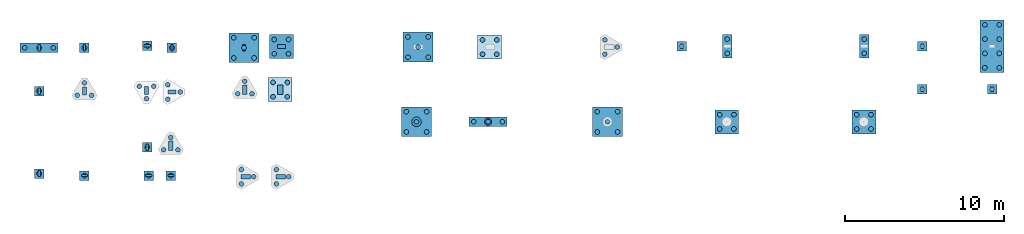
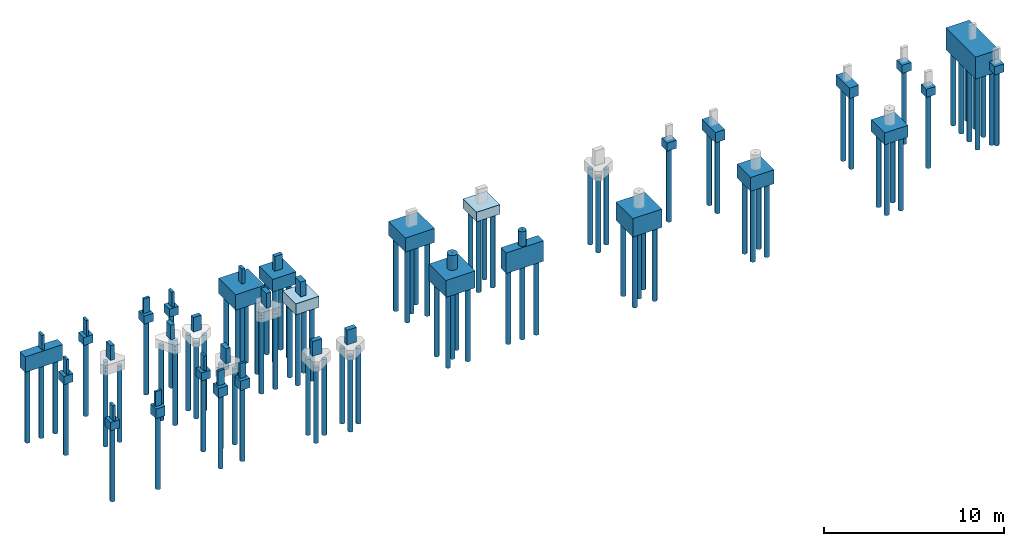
# One storey, part 1 of 3: 95 piles, 27 footings, 22 columns.
"""IFC2X3 building model written with IfcOpenShell, lengths in centimetres."""

from ifc_helpers import new_model, si_unit, derived_unit, frame, origin, origin_with_axes, origin_2d_with_axis, place, context, project, spatial, rectangle, circle, hollow_circle, extrude, faceted_brep, material, element, save


model = new_model("IFC2X3")

# Units and contexts
model_context = context("Model", 3, precision=1e-05, world=origin_with_axes(), identifier="Body")
ifc_project = project(units=[si_unit("LENGTHUNIT", "METRE", prefix="CENTI"), si_unit("VOLUMEUNIT", "CUBIC_METRE"), si_unit("AREAUNIT", "SQUARE_METRE"), si_unit("POWERUNIT", "WATT"), si_unit("LUMINOUSFLUXUNIT", "LUMEN"), si_unit("ELECTRICCURRENTUNIT", "AMPERE"), si_unit("PRESSUREUNIT", "PASCAL", prefix="KILO"), si_unit("MASSUNIT", "GRAM", prefix="KILO"), si_unit("PLANEANGLEUNIT", "RADIAN"), derived_unit("VOLUMETRICFLOWRATEUNIT", [(si_unit("LENGTHUNIT", "METRE"), 3), (si_unit("TIMEUNIT", "SECOND"), -1)])], contexts=[model_context])

# Site, building, storey
site_placement = place(None, origin_with_axes())
site = spatial("IfcSite", under=ifc_project, at=site_placement)
building_placement = place(site_placement, origin())
building = spatial("IfcBuilding", under=site, at=building_placement)
storey_placement = place(building_placement, origin_with_axes())
storey = spatial("IfcBuildingStorey", under=building, at=storey_placement, Name="01. Estacionamento", CompositionType="ELEMENT", Elevation=0.0)

# Footings
ifc_material = material(Name="Concreto")
footing_1_placement = place(storey_placement, frame((-1732.96, -294.11, -100.0), z_axis=(0.0, 0.0, 1.0), x_axis=(1.0, 0.0, 0.0)))
element("IfcFooting", 1, at=footing_1_placement, inside=storey, material=ifc_material, Name="P1", context=model_context, shape_type="SolidModel", body=[
    faceted_brep([(120.0, 30.0, -105.0), (120.0, -30.0, -105.0), (-120.0, -30.0, -105.0), (-120.0, 30.0, -105.0), (-120.0, 30.0, 0.0), (-120.0, -30.0, 0.0), (120.0, -30.0, 0.0), (120.0, 30.0, 0.0)], [[[0, 1, 2, 3]], [[4, 5, 6, 7]], [[4, 3, 5]], [[3, 2, 5]], [[5, 2, 6]], [[2, 1, 6]], [[6, 1, 7]], [[1, 0, 7]], [[7, 0, 4]], [[0, 3, 4]]]),
])
footing_2_placement = place(storey_placement, frame((2305.54, -284.11, -100.0), z_axis=(0.0, 0.0, 1.0), x_axis=(1.0, 0.0, 0.0)))
element("IfcFooting", 2, at=footing_2_placement, inside=storey, material=ifc_material, Name="P11", context=model_context, shape_type="SolidModel", body=[
    faceted_brep([(30.0, -30.0, -55.0), (-30.0, -30.0, -55.0), (-30.0, 30.0, -55.0), (30.0, 30.0, -55.0), (30.0, 30.0, 0.0), (-30.0, 30.0, 0.0), (-30.0, -30.0, 0.0), (30.0, -30.0, 0.0)], [[[0, 1, 2, 3]], [[4, 5, 6, 7]], [[4, 3, 5]], [[3, 2, 5]], [[5, 2, 6]], [[2, 1, 6]], [[6, 1, 7]], [[1, 0, 7]], [[7, 0, 4]], [[0, 3, 4]]]),
])
for number, where, z_axis, x_axis, name in (
    (3, (2591.04, -284.11, -100.0), (0.0, 0.0, 1.0), (1.0, 0.0, 0.0), "P12"),
    (4, (3452.04, -284.11, -100.0), (0.0, 0.0, 1.0), (1.0, 0.0, 0.0), "P13"),
):
    element("IfcFooting", number, at=place(storey_placement, frame(where, z_axis=z_axis, x_axis=x_axis)), inside=storey, material=ifc_material, Name=name, context=model_context, shape_type="SolidModel", body=[
        faceted_brep([(30.0, -75.0, -70.0), (-30.0, -75.0, -70.0), (-30.0, 75.0, -70.0), (30.0, 75.0, -70.0), (30.0, 75.0, 0.0), (-30.0, 75.0, 0.0), (-30.0, -75.0, 0.0), (30.0, -75.0, 0.0)], [[[0, 1, 2, 3]], [[4, 5, 6, 7]], [[4, 3, 5]], [[3, 2, 5]], [[5, 2, 6]], [[2, 1, 6]], [[6, 1, 7]], [[1, 0, 7]], [[7, 0, 4]], [[0, 3, 4]]]),
    ])
footing_3_placement = place(storey_placement, frame((3816.04, -284.11, -100.0), z_axis=(0.0, 0.0, 1.0), x_axis=(1.0, 0.0, 0.0)))
element("IfcFooting", 5, at=footing_3_placement, inside=storey, material=ifc_material, Name="P14", context=model_context, shape_type="SolidModel", body=[
    faceted_brep([(30.0, -30.0, -55.0), (-30.0, -30.0, -55.0), (-30.0, 30.0, -55.0), (30.0, 30.0, -55.0), (30.0, 30.0, 0.0), (-30.0, 30.0, 0.0), (-30.0, -30.0, 0.0), (30.0, -30.0, 0.0)], [[[0, 1, 2, 3]], [[4, 5, 6, 7]], [[4, 3, 5]], [[3, 2, 5]], [[5, 2, 6]], [[2, 1, 6]], [[6, 1, 7]], [[1, 0, 7]], [[7, 0, 4]], [[0, 3, 4]]]),
])
footing_4_placement = place(storey_placement, frame((4255.54, -284.11, -100.0), z_axis=(0.0, 0.0, 1.0), x_axis=(1.0, 0.0, 0.0)))
element("IfcFooting", 6, at=footing_4_placement, inside=storey, material=ifc_material, Name="P15", context=model_context, shape_type="SolidModel", body=[
    faceted_brep([(75.0, -165.0, -150.0), (-75.0, -165.0, -150.0), (-75.0, 165.0, -150.0), (75.0, 165.0, -150.0), (75.0, 165.0, 0.0), (-75.0, 165.0, 0.0), (-75.0, -165.0, 0.0), (75.0, -165.0, 0.0)], [[[0, 1, 2, 3]], [[4, 5, 6, 7]], [[4, 3, 5]], [[3, 2, 5]], [[5, 2, 6]], [[2, 1, 6]], [[6, 1, 7]], [[1, 0, 7]], [[7, 0, 4]], [[0, 3, 4]]]),
])
for number, where, z_axis, x_axis, name in (
    (7, (-1732.96, -566.61, -100.0), (0.0, 0.0, 1.0), (1.0, 0.0, 0.0), "P16"),
    (8, (-1447.96, -294.11, -100.0), (0.0, 0.0, 1.0), (1.0, 0.0, 0.0), "P2"),
):
    element("IfcFooting", number, at=place(storey_placement, frame(where, z_axis=z_axis, x_axis=x_axis)), inside=storey, material=ifc_material, Name=name, context=model_context, shape_type="SolidModel", body=[
        faceted_brep([(30.0, 30.0, -55.0), (30.0, -30.0, -55.0), (-30.0, -30.0, -55.0), (-30.0, 30.0, -55.0), (-30.0, 30.0, 0.0), (-30.0, -30.0, 0.0), (30.0, -30.0, 0.0), (30.0, 30.0, 0.0)], [[[0, 1, 2, 3]], [[4, 5, 6, 7]], [[4, 3, 5]], [[3, 2, 5]], [[5, 2, 6]], [[2, 1, 6]], [[6, 1, 7]], [[1, 0, 7]], [[7, 0, 4]], [[0, 3, 4]]]),
    ])
footing_5_placement = place(storey_placement, frame((-217.96, -556.61, -100.0), z_axis=(0.0, 0.0, 1.0), x_axis=(1.0, 0.0, 0.0)))
element("IfcFooting", 9, at=footing_5_placement, inside=storey, material=ifc_material, Name="P21", context=model_context, shape_type="SolidModel", body=[
    faceted_brep([(75.0, 75.0, -75.0), (75.0, -75.0, -75.0), (-75.0, -75.0, -75.0), (-75.0, 75.0, -75.0), (-75.0, 75.0, 0.0), (-75.0, -75.0, 0.0), (75.0, -75.0, 0.0), (75.0, 75.0, 0.0)], [[[0, 1, 2, 3]], [[4, 5, 6, 7]], [[4, 3, 5]], [[3, 2, 5]], [[5, 2, 6]], [[2, 1, 6]], [[6, 1, 7]], [[1, 0, 7]], [[7, 0, 4]], [[0, 3, 4]]]),
])
for number, where, z_axis, x_axis, name in (
    (10, (3816.04, -554.11, -100.0), (0.0, 0.0, 1.0), (1.0, 0.0, 0.0), "P22"),
    (11, (4255.54, -554.11, -100.0), (0.0, 0.0, 1.0), (1.0, 0.0, 0.0), "P23"),
):
    element("IfcFooting", number, at=place(storey_placement, frame(where, z_axis=z_axis, x_axis=x_axis)), inside=storey, material=ifc_material, Name=name, context=model_context, shape_type="SolidModel", body=[
        faceted_brep([(30.0, -30.0, -55.0), (-30.0, -30.0, -55.0), (-30.0, 30.0, -55.0), (30.0, 30.0, -55.0), (30.0, 30.0, 0.0), (-30.0, 30.0, 0.0), (-30.0, -30.0, 0.0), (30.0, -30.0, 0.0)], [[[0, 1, 2, 3]], [[4, 5, 6, 7]], [[4, 3, 5]], [[3, 2, 5]], [[5, 2, 6]], [[2, 1, 6]], [[6, 1, 7]], [[1, 0, 7]], [[7, 0, 4]], [[0, 3, 4]]]),
    ])
footing_6_placement = place(storey_placement, frame((638.67, -758.96, -100.0), z_axis=(0.0, 0.0, 1.0), x_axis=(1.0, 0.0, 0.0)))
element("IfcFooting", 12, at=footing_6_placement, inside=storey, material=ifc_material, Name="P28", context=model_context, shape_type="SolidModel", body=[
    faceted_brep([(93.63961030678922, 93.63961030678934, -115.0), (93.63961030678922, -93.63961030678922, -115.0), (-93.63961030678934, -93.63961030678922, -115.0), (-93.63961030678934, 93.63961030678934, -115.0), (-93.63961030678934, 93.63961030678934, 0.0), (-93.63961030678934, -93.63961030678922, 0.0), (93.63961030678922, -93.63961030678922, 0.0), (93.63961030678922, 93.63961030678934, 0.0)], [[[0, 1, 2, 3]], [[4, 5, 6, 7]], [[4, 3, 5]], [[3, 2, 5]], [[5, 2, 6]], [[2, 1, 6]], [[6, 1, 7]], [[1, 0, 7]], [[7, 0, 4]], [[0, 3, 4]]]),
])
footing_7_placement = place(storey_placement, frame((1088.67, -758.96, -100.0), z_axis=(0.0, 0.0, 1.0), x_axis=(1.0, 0.0, 0.0)))
element("IfcFooting", 13, at=footing_7_placement, inside=storey, material=ifc_material, Name="P29", context=model_context, shape_type="SolidModel", body=[
    faceted_brep([(120.0, 30.0, -140.0), (120.0, -30.0, -140.0), (-120.0, -30.0, -140.0), (-120.0, 30.0, -140.0), (-120.0, 30.0, 0.0), (-120.0, -30.0, 0.0), (120.0, -30.0, 0.0), (120.0, 30.0, 0.0)], [[[0, 1, 2, 3]], [[4, 5, 6, 7]], [[4, 3, 5]], [[3, 2, 5]], [[5, 2, 6]], [[2, 1, 6]], [[6, 1, 7]], [[1, 0, 7]], [[7, 0, 4]], [[0, 3, 4]]]),
])
footing_8_placement = place(storey_placement, frame((-1052.96, -282.08, -100.0), z_axis=(0.0, 0.0, 1.0), x_axis=(1.0, 0.0, 0.0)))
element("IfcFooting", 14, at=footing_8_placement, inside=storey, material=ifc_material, Name="P3", context=model_context, shape_type="SolidModel", body=[
    faceted_brep([(30.0, -30.0, -55.0), (-30.0, -30.0, -55.0), (-30.0, 30.0, -55.0), (30.0, 30.0, -55.0), (30.0, 30.0, 0.0), (-30.0, 30.0, 0.0), (-30.0, -30.0, 0.0), (30.0, -30.0, 0.0)], [[[0, 1, 2, 3]], [[4, 5, 6, 7]], [[4, 3, 5]], [[3, 2, 5]], [[5, 2, 6]], [[2, 1, 6]], [[6, 1, 7]], [[1, 0, 7]], [[7, 0, 4]], [[0, 3, 4]]]),
])
footing_9_placement = place(storey_placement, frame((1838.67, -758.96, -100.0), z_axis=(0.0, 0.0, 1.0), x_axis=(1.0, 0.0, 0.0)))
element("IfcFooting", 15, at=footing_9_placement, inside=storey, material=ifc_material, Name="P30", context=model_context, shape_type="SolidModel", body=[
    faceted_brep([(93.63961030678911, 93.63961030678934, -125.0), (93.63961030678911, -93.63961030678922, -125.0), (-93.63961030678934, -93.63961030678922, -125.0), (-93.63961030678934, 93.63961030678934, -125.0), (-93.63961030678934, 93.63961030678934, 0.0), (-93.63961030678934, -93.63961030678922, 0.0), (93.63961030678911, -93.63961030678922, 0.0), (93.63961030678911, 93.63961030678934, 0.0)], [[[0, 1, 2, 3]], [[4, 5, 6, 7]], [[4, 3, 5]], [[3, 2, 5]], [[5, 2, 6]], [[2, 1, 6]], [[6, 1, 7]], [[1, 0, 7]], [[7, 0, 4]], [[0, 3, 4]]]),
])
footing_10_placement = place(storey_placement, frame((2588.67, -758.96, -100.0), z_axis=(0.0, 0.0, 1.0), x_axis=(1.0, 0.0, 0.0)))
element("IfcFooting", 16, at=footing_10_placement, inside=storey, material=ifc_material, Name="P31", context=model_context, shape_type="SolidModel", body=[
    faceted_brep([(75.0, 75.0, -95.0), (75.0, -75.0, -95.0), (-75.0, -75.0, -95.0), (-75.0, 75.0, -95.0), (-75.0, 75.0, 0.0), (-75.0, -75.0, 0.0), (75.0, -75.0, 0.0), (75.0, 75.0, 0.0)], [[[0, 1, 2, 3]], [[4, 5, 6, 7]], [[4, 3, 5]], [[3, 2, 5]], [[5, 2, 6]], [[2, 1, 6]], [[6, 1, 7]], [[1, 0, 7]], [[7, 0, 4]], [[0, 3, 4]]]),
])
footing_11_placement = place(storey_placement, frame((3449.67, -758.96, -100.0), z_axis=(0.0, 0.0, 1.0), x_axis=(1.0, 0.0, 0.0)))
element("IfcFooting", 17, at=footing_11_placement, inside=storey, material=ifc_material, Name="P32", context=model_context, shape_type="SolidModel", body=[
    faceted_brep([(75.0, 75.0, -80.0), (75.0, -75.0, -80.0), (-75.0, -75.0, -80.0), (-75.0, 75.0, -80.0), (-75.0, 75.0, 0.0), (-75.0, -75.0, 0.0), (75.0, -75.0, 0.0), (75.0, 75.0, 0.0)], [[[0, 1, 2, 3]], [[4, 5, 6, 7]], [[4, 3, 5]], [[3, 2, 5]], [[5, 2, 6]], [[2, 1, 6]], [[6, 1, 7]], [[1, 0, 7]], [[7, 0, 4]], [[0, 3, 4]]]),
])
footing_12_placement = place(storey_placement, frame((-1052.96, -919.11, -100.0), z_axis=(0.0, 0.0, 1.0), x_axis=(1.0, 0.0, 0.0)))
element("IfcFooting", 18, at=footing_12_placement, inside=storey, material=ifc_material, Name="P33", context=model_context, shape_type="SolidModel", body=[
    faceted_brep([(-30.0, -30.0, -55.0), (-30.0, 30.0, -55.0), (30.0, 30.0, -55.0), (30.0, -30.0, -55.0), (30.0, -30.0, 0.0), (30.0, 30.0, 0.0), (-30.0, 30.0, 0.0), (-30.0, -30.0, 0.0)], [[[0, 1, 2, 3]], [[4, 5, 6, 7]], [[4, 3, 5]], [[3, 2, 5]], [[5, 2, 6]], [[2, 1, 6]], [[6, 1, 7]], [[1, 0, 7]], [[7, 0, 4]], [[0, 3, 4]]]),
])
footing_13_placement = place(storey_placement, frame((-1732.96, -1084.11, -100.0), z_axis=(0.0, 0.0, 1.0), x_axis=(1.0, 0.0, 0.0)))
element("IfcFooting", 19, at=footing_13_placement, inside=storey, material=ifc_material, Name="P35", context=model_context, shape_type="SolidModel", body=[
    faceted_brep([(30.0, 30.0, -55.0), (30.0, -30.0, -55.0), (-30.0, -30.0, -55.0), (-30.0, 30.0, -55.0), (-30.0, 30.0, 0.0), (-30.0, -30.0, 0.0), (30.0, -30.0, 0.0), (30.0, 30.0, 0.0)], [[[0, 1, 2, 3]], [[4, 5, 6, 7]], [[4, 3, 5]], [[3, 2, 5]], [[5, 2, 6]], [[2, 1, 6]], [[6, 1, 7]], [[1, 0, 7]], [[7, 0, 4]], [[0, 3, 4]]]),
])
for number, where, z_axis, x_axis, name in (
    (20, (-1447.96, -1096.61, -100.0), (0.0, 0.0, 1.0), (1.0, 0.0, 0.0), "P36"),
    (21, (-1044.96, -1096.6, -100.0), (0.0, 0.0, 1.0), (1.0, 0.0, 0.0), "P37"),
    (22, (-904.46, -1096.6, -100.0), (0.0, 0.0, 1.0), (1.0, 0.0, 0.0), "P38"),
):
    element("IfcFooting", number, at=place(storey_placement, frame(where, z_axis=z_axis, x_axis=x_axis)), inside=storey, material=ifc_material, Name=name, context=model_context, shape_type="SolidModel", body=[
        faceted_brep([(30.0, -30.0, -65.0), (-30.0, -30.0, -65.0), (-30.0, 30.0, -65.0), (30.0, 30.0, -65.0), (30.0, 30.0, 0.0), (-30.0, 30.0, 0.0), (-30.0, -30.0, 0.0), (30.0, -30.0, 0.0)], [[[0, 1, 2, 3]], [[4, 5, 6, 7]], [[4, 3, 5]], [[3, 2, 5]], [[5, 2, 6]], [[2, 1, 6]], [[6, 1, 7]], [[1, 0, 7]], [[7, 0, 4]], [[0, 3, 4]]]),
    ])
footing_14_placement = place(storey_placement, frame((-897.96, -294.11, -100.0), z_axis=(0.0, 0.0, 1.0), x_axis=(1.0, 0.0, 0.0)))
element("IfcFooting", 23, at=footing_14_placement, inside=storey, material=ifc_material, Name="P4", context=model_context, shape_type="SolidModel", body=[
    faceted_brep([(30.0, 30.0, -55.0), (30.0, -30.0, -55.0), (-30.0, -30.0, -55.0), (-30.0, 30.0, -55.0), (-30.0, 30.0, 0.0), (-30.0, -30.0, 0.0), (30.0, -30.0, 0.0), (30.0, 30.0, 0.0)], [[[0, 1, 2, 3]], [[4, 5, 6, 7]], [[4, 3, 5]], [[3, 2, 5]], [[5, 2, 6]], [[2, 1, 6]], [[6, 1, 7]], [[1, 0, 7]], [[7, 0, 4]], [[0, 3, 4]]]),
])
footing_15_placement = place(storey_placement, frame((-445.46, -294.11, -100.0), z_axis=(0.0, 0.0, 1.0), x_axis=(1.0, 0.0, 0.0)))
element("IfcFooting", 24, at=footing_15_placement, inside=storey, material=ifc_material, Name="P5", context=model_context, shape_type="SolidModel", body=[
    faceted_brep([(93.63961030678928, 93.63961030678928, -105.0), (93.63961030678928, -93.63961030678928, -105.0), (-93.63961030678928, -93.63961030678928, -105.0), (-93.63961030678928, 93.63961030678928, -105.0), (-93.63961030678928, 93.63961030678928, 0.0), (-93.63961030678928, -93.63961030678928, 0.0), (93.63961030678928, -93.63961030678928, 0.0), (93.63961030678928, 93.63961030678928, 0.0)], [[[0, 1, 2, 3]], [[4, 5, 6, 7]], [[4, 3, 5]], [[3, 2, 5]], [[5, 2, 6]], [[2, 1, 6]], [[6, 1, 7]], [[1, 0, 7]], [[7, 0, 4]], [[0, 3, 4]]]),
])
footing_16_placement = place(storey_placement, frame((-210.46, -286.61, -100.0), z_axis=(0.0, 0.0, 1.0), x_axis=(1.0, 0.0, 0.0)))
element("IfcFooting", 25, at=footing_16_placement, inside=storey, material=ifc_material, Name="P6", context=model_context, shape_type="SolidModel", body=[
    faceted_brep([(75.0, -75.0, -85.0), (-75.0, -75.0, -85.0), (-75.0, 75.0, -85.0), (75.0, 75.0, -85.0), (75.0, 75.0, 0.0), (-75.0, 75.0, 0.0), (-75.0, -75.0, 0.0), (75.0, -75.0, 0.0)], [[[0, 1, 2, 3]], [[4, 5, 6, 7]], [[4, 3, 5]], [[3, 2, 5]], [[5, 2, 6]], [[2, 1, 6]], [[6, 1, 7]], [[1, 0, 7]], [[7, 0, 4]], [[0, 3, 4]]]),
])
footing_17_placement = place(storey_placement, frame((648.54, -289.11, -100.0), z_axis=(0.0, 0.0, 1.0), x_axis=(1.0, 0.0, 0.0)))
element("IfcFooting", 26, at=footing_17_placement, inside=storey, material=ifc_material, Name="P8", context=model_context, shape_type="SolidModel", body=[
    faceted_brep([(93.63961030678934, -93.63961030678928, -95.0), (-93.63961030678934, -93.63961030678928, -95.0), (-93.63961030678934, 93.63961030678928, -95.0), (93.63961030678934, 93.63961030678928, -95.0), (93.63961030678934, 93.63961030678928, 0.0), (-93.63961030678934, 93.63961030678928, 0.0), (-93.63961030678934, -93.63961030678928, 0.0), (93.63961030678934, -93.63961030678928, 0.0)], [[[0, 1, 2, 3]], [[4, 5, 6, 7]], [[4, 3, 5]], [[3, 2, 5]], [[5, 2, 6]], [[2, 1, 6]], [[6, 1, 7]], [[1, 0, 7]], [[7, 0, 4]], [[0, 3, 4]]]),
])
footing_18_placement = place(storey_placement, frame((1098.54, -289.11, -100.0), z_axis=(0.0, 0.0, 1.0), x_axis=(1.0, 0.0, 0.0)))
element("IfcFooting", 27, at=footing_18_placement, inside=storey, material=ifc_material, Name="P9", context=model_context, shape_type="SolidModel", body=[
    faceted_brep([(75.0, -75.0, -65.0), (-75.0, -75.0, -65.0), (-75.0, 75.0, -65.0), (75.0, 75.0, -65.0), (75.0, 75.0, 0.0), (-75.0, 75.0, 0.0), (-75.0, -75.0, 0.0), (75.0, -75.0, 0.0)], [[[0, 1, 2, 3]], [[4, 5, 6, 7]], [[4, 3, 5]], [[3, 2, 5]], [[5, 2, 6]], [[2, 1, 6]], [[6, 1, 7]], [[1, 0, 7]], [[7, 0, 4]], [[0, 3, 4]]]),
])

# Piles
for number, where, z_axis, x_axis, name in (
    (28, (-1822.96, -294.11, -190.0), (0.0, 0.0, 1.0), (1.0, 0.0, 0.0), "E1-1"),
    (29, (-1732.96, -294.11, -190.0), (0.0, 0.0, 1.0), (1.0, 0.0, 0.0), "E1-2"),
    (30, (-1642.96, -294.11, -190.0), (0.0, 0.0, 1.0), (1.0, 0.0, 0.0), "E1-3"),
    (31, (1822.5592378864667, -244.11, -150.0), (0.0, 0.0, 1.0), (1.0, 0.0, 0.0), "E10-1"),
    (32, (1900.5015242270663, -289.11, -150.0), (0.0, 0.0, 1.0), (1.0, 0.0, 0.0), "E10-2"),
    (33, (1822.559237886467, -334.11, -150.0), (0.0, 0.0, 1.0), (1.0, 0.0, 0.0), "E10-3"),
    (34, (2305.54, -284.11, -140.0), (0.0, 0.0, 1.0), (1.0, 0.0, 0.0), "E11-1"),
    (35, (2591.04, -239.11, -155.0), (0.0, 0.0, 1.0), (1.0, 0.0, 0.0), "E12-1"),
    (36, (2591.04, -329.11, -155.0), (0.0, 0.0, 1.0), (1.0, 0.0, 0.0), "E12-2"),
    (37, (3452.04, -239.11, -155.0), (0.0, 0.0, 1.0), (1.0, 0.0, 0.0), "E13-1"),
    (38, (3452.04, -329.11, -155.0), (0.0, 0.0, 1.0), (1.0, 0.0, 0.0), "E13-2"),
    (39, (3816.04, -284.11, -140.0), (0.0, 0.0, 1.0), (1.0, 0.0, 0.0), "E14-1"),
    (40, (4210.54, -149.11, -235.0), (0.0, 0.0, 1.0), (1.0, 0.0, 0.0), "E15-1"),
    (41, (4300.54, -149.11, -235.0), (0.0, 0.0, 1.0), (1.0, 0.0, 0.0), "E15-2"),
    (42, (4210.54, -239.11, -235.0), (0.0, 0.0, 1.0), (1.0, 0.0, 0.0), "E15-3"),
    (43, (4300.54, -239.11, -235.0), (0.0, 0.0, 1.0), (1.0, 0.0, 0.0), "E15-4"),
    (44, (4210.54, -329.11, -235.0), (0.0, 0.0, 1.0), (1.0, 0.0, 0.0), "E15-5"),
    (45, (4300.54, -329.11, -235.0), (0.0, 0.0, 1.0), (1.0, 0.0, 0.0), "E15-6"),
    (46, (4210.54, -419.11, -235.0), (0.0, 0.0, 1.0), (1.0, 0.0, 0.0), "E15-7"),
    (47, (4300.54, -419.11, -235.0), (0.0, 0.0, 1.0), (1.0, 0.0, 0.0), "E15-8"),
    (48, (-1732.96, -566.61, -140.0), (0.0, 0.0, 1.0), (1.0, 0.0, 0.0), "E16-1"),
    (49, (-1447.96, -514.6484757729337, -150.0), (0.0, 0.0, 1.0), (1.0, 0.0, 0.0), "E17-1"),
    (50, (-1492.96, -592.5907621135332, -150.0), (0.0, 0.0, 1.0), (1.0, 0.0, 0.0), "E17-2"),
    (51, (-1402.96, -592.5907621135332, -150.0), (0.0, 0.0, 1.0), (1.0, 0.0, 0.0), "E17-3"),
    (52, (-1102.96, -535.6292378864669, -145.0), (0.0, 0.0, 1.0), (1.0, 0.0, 0.0), "E18-1"),
    (53, (-1012.96, -535.6292378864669, -145.0), (0.0, 0.0, 1.0), (1.0, 0.0, 0.0), "E18-2"),
    (54, (-1057.96, -613.5715242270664, -145.0), (0.0, 0.0, 1.0), (1.0, 0.0, 0.0), "E18-3"),
    (55, (-923.9407621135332, -526.61, -145.0), (0.0, 0.0, 1.0), (1.0, 0.0, 0.0), "E19-1"),
    (56, (-845.9984757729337, -571.61, -145.0), (0.0, 0.0, 1.0), (1.0, 0.0, 0.0), "E19-2"),
    (57, (-923.9407621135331, -616.61, -145.0), (0.0, 0.0, 1.0), (1.0, 0.0, 0.0), "E19-3"),
    (58, (-1447.96, -294.11, -140.0), (0.0, 0.0, 1.0), (1.0, 0.0, 0.0), "E2-1"),
    (59, (-440.46, -504.6484757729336, -150.0), (0.0, 0.0, 1.0), (1.0, 0.0, 0.0), "E20-1"),
    (60, (-485.46, -582.5907621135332, -150.0), (0.0, 0.0, 1.0), (1.0, 0.0, 0.0), "E20-2"),
    (61, (-395.46, -582.5907621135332, -150.0), (0.0, 0.0, 1.0), (1.0, 0.0, 0.0), "E20-3"),
    (62, (-262.96, -511.61, -160.0), (0.0, 0.0, 1.0), (1.0, 0.0, 0.0), "E21-1"),
    (63, (-172.96, -511.61, -160.0), (0.0, 0.0, 1.0), (1.0, 0.0, 0.0), "E21-2"),
    (64, (-262.96, -601.61, -160.0), (0.0, 0.0, 1.0), (1.0, 0.0, 0.0), "E21-3"),
    (65, (-172.96, -601.61, -160.0), (0.0, 0.0, 1.0), (1.0, 0.0, 0.0), "E21-4"),
    (66, (3816.04, -554.11, -140.0), (0.0, 0.0, 1.0), (1.0, 0.0, 0.0), "E22-1"),
    (67, (4255.54, -554.11, -140.0), (0.0, 0.0, 1.0), (1.0, 0.0, 0.0), "E23-1"),
    (68, (575.0303896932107, -695.3203896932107, -200.0), (0.0, 0.0, 1.0), (1.0, 0.0, 0.0), "E28-1"),
    (69, (702.3096103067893, -695.3203896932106, -200.0), (0.0, 0.0, 1.0), (1.0, 0.0, 0.0), "E28-2"),
    (70, (638.67, -758.96, -200.0), (0.0, 0.0, 1.0), (1.0, 0.0, 0.0), "E28-3"),
    (71, (575.0303896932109, -822.5996103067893, -200.0), (0.0, 0.0, 1.0), (1.0, 0.0, 0.0), "E28-4"),
    (72, (702.3096103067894, -822.5996103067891, -200.0), (0.0, 0.0, 1.0), (1.0, 0.0, 0.0), "E28-5"),
    (73, (998.67, -758.96, -225.0), (0.0, 0.0, 1.0), (1.0, 0.0, 0.0), "E29-1"),
    (74, (1088.67, -758.96, -225.0), (0.0, 0.0, 1.0), (1.0, 0.0, 0.0), "E29-2"),
    (75, (1178.67, -758.96, -225.0), (0.0, 0.0, 1.0), (1.0, 0.0, 0.0), "E29-3"),
    (76, (-1052.96, -282.08, -140.0), (0.0, 0.0, 1.0), (1.0, 0.0, 0.0), "E3-1"),
    (77, (1775.0303896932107, -695.3203896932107, -210.0), (0.0, 0.0, 1.0), (1.0, 0.0, 0.0), "E30-1"),
    (78, (1902.3096103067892, -695.3203896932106, -210.0), (0.0, 0.0, 1.0), (1.0, 0.0, 0.0), "E30-2"),
    (79, (1838.67, -758.96, -210.0), (0.0, 0.0, 1.0), (1.0, 0.0, 0.0), "E30-3"),
    (80, (1775.0303896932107, -822.5996103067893, -210.0), (0.0, 0.0, 1.0), (1.0, 0.0, 0.0), "E30-4"),
    (81, (1902.3096103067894, -822.5996103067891, -210.0), (0.0, 0.0, 1.0), (1.0, 0.0, 0.0), "E30-5"),
    (82, (2543.67, -713.96, -180.0), (0.0, 0.0, 1.0), (1.0, 0.0, 0.0), "E31-1"),
    (83, (2633.67, -713.96, -180.0), (0.0, 0.0, 1.0), (1.0, 0.0, 0.0), "E31-2"),
    (84, (2543.67, -803.96, -180.0), (0.0, 0.0, 1.0), (1.0, 0.0, 0.0), "E31-3"),
    (85, (2633.67, -803.96, -180.0), (0.0, 0.0, 1.0), (1.0, 0.0, 0.0), "E31-4"),
    (86, (3404.67, -713.96, -165.0), (0.0, 0.0, 1.0), (1.0, 0.0, 0.0), "E32-1"),
    (87, (3494.67, -713.96, -165.0), (0.0, 0.0, 1.0), (1.0, 0.0, 0.0), "E32-2"),
    (88, (3404.67, -803.96, -165.0), (0.0, 0.0, 1.0), (1.0, 0.0, 0.0), "E32-3"),
    (89, (3494.67, -803.96, -165.0), (0.0, 0.0, 1.0), (1.0, 0.0, 0.0), "E32-4"),
    (90, (-1052.96, -919.11, -140.0), (0.0, 0.0, 1.0), (1.0, 0.0, 0.0), "E33-1"),
    (91, (-905.46, -857.1484757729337, -150.0), (0.0, 0.0, 1.0), (1.0, 0.0, 0.0), "E34-1"),
    (92, (-950.46, -935.0907621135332, -150.0), (0.0, 0.0, 1.0), (1.0, 0.0, 0.0), "E34-2"),
    (93, (-860.46, -935.0907621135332, -150.0), (0.0, 0.0, 1.0), (1.0, 0.0, 0.0), "E34-3"),
    (94, (-1732.96, -1084.11, -140.0), (0.0, 0.0, 1.0), (1.0, 0.0, 0.0), "E35-1"),
    (95, (-1447.96, -1096.61, -150.0), (0.0, 0.0, 1.0), (1.0, 0.0, 0.0), "E36-1"),
    (96, (-1044.96, -1096.6, -150.0), (0.0, 0.0, 1.0), (1.0, 0.0, 0.0), "E37-1"),
    (97, (-904.46, -1096.6, -150.0), (0.0, 0.0, 1.0), (1.0, 0.0, 0.0), "E38-1"),
    (98, (-461.440762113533, -1059.1, -150.0), (0.0, 0.0, 1.0), (1.0, 0.0, 0.0), "E39-1"),
    (99, (-383.49847577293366, -1104.1, -150.0), (0.0, 0.0, 1.0), (1.0, 0.0, 0.0), "E39-2"),
    (100, (-461.440762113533, -1149.1, -150.0), (0.0, 0.0, 1.0), (1.0, 0.0, 0.0), "E39-3"),
    (101, (-897.96, -294.11, -140.0), (0.0, 0.0, 1.0), (1.0, 0.0, 0.0), "E4-1"),
    (102, (-241.44076211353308, -1059.1, -150.0), (0.0, 0.0, 1.0), (1.0, 0.0, 0.0), "E40-1"),
    (103, (-163.4984757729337, -1104.1, -150.0), (0.0, 0.0, 1.0), (1.0, 0.0, 0.0), "E40-2"),
    (104, (-241.44076211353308, -1149.1, -150.0), (0.0, 0.0, 1.0), (1.0, 0.0, 0.0), "E40-3"),
    (105, (-509.09961030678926, -230.47038969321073, -190.0), (0.0, 0.0, 1.0), (1.0, 0.0, 0.0), "E5-1"),
    (106, (-381.8203896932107, -230.47038969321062, -190.0), (0.0, 0.0, 1.0), (1.0, 0.0, 0.0), "E5-2"),
    (107, (-445.46, -294.11, -190.0), (0.0, 0.0, 1.0), (1.0, 0.0, 0.0), "E5-3"),
    (108, (-509.09961030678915, -357.7496103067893, -190.0), (0.0, 0.0, 1.0), (1.0, 0.0, 0.0), "E5-4"),
    (109, (-381.82038969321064, -357.74961030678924, -190.0), (0.0, 0.0, 1.0), (1.0, 0.0, 0.0), "E5-5"),
    (110, (-255.46, -241.61, -170.0), (0.0, 0.0, 1.0), (1.0, 0.0, 0.0), "E6-1"),
    (111, (-165.46, -241.61, -170.0), (0.0, 0.0, 1.0), (1.0, 0.0, 0.0), "E6-2"),
    (112, (-255.46, -331.61, -170.0), (0.0, 0.0, 1.0), (1.0, 0.0, 0.0), "E6-3"),
    (113, (-165.46, -331.61, -170.0), (0.0, 0.0, 1.0), (1.0, 0.0, 0.0), "E6-4"),
    (114, (584.9003896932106, -225.4703896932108, -180.0), (0.0, 0.0, 1.0), (1.0, 0.0, 0.0), "E8-1"),
    (115, (712.1796103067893, -225.47038969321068, -180.0), (0.0, 0.0, 1.0), (1.0, 0.0, 0.0), "E8-2"),
    (116, (648.54, -289.11, -180.0), (0.0, 0.0, 1.0), (1.0, 0.0, 0.0), "E8-3"),
    (117, (584.9003896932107, -352.74961030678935, -180.0), (0.0, 0.0, 1.0), (1.0, 0.0, 0.0), "E8-4"),
    (118, (712.1796103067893, -352.74961030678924, -180.0), (0.0, 0.0, 1.0), (1.0, 0.0, 0.0), "E8-5"),
    (119, (1053.54, -244.11, -150.0), (0.0, 0.0, 1.0), (1.0, 0.0, 0.0), "E9-1"),
    (120, (1143.54, -244.11, -150.0), (0.0, 0.0, 1.0), (1.0, 0.0, 0.0), "E9-2"),
    (121, (1053.54, -334.11, -150.0), (0.0, 0.0, 1.0), (1.0, 0.0, 0.0), "E9-3"),
    (122, (1143.54, -334.11, -150.0), (0.0, 0.0, 1.0), (1.0, 0.0, 0.0), "E9-4"),
):
    element("IfcPile", number, at=place(storey_placement, frame(where, z_axis=z_axis, x_axis=x_axis)), inside=storey, material=ifc_material, Name=name, context=model_context, shape_type="SweptSolid", body=[
        extrude(circle(Radius=15.0, at=origin_2d_with_axis()), frame((0.0, 0.0, -515.0), z_axis=(0.0, 0.0, 1.0), x_axis=(1.0, 0.0, 0.0)), (0.0, 0.0, 1.0), 515.0),
    ])

# Columns
for number, where, z_axis, x_axis, name in (
    (123, (-1732.96, -294.11, 0.0), (0.0, 0.0, 1.0), (1.0, 0.0, 0.0), "P1"),
    (124, (-1732.96, -566.61, 0.0), (0.0, 0.0, 1.0), (1.0, 0.0, 0.0), "P16"),
):
    element("IfcColumn", number, at=place(storey_placement, frame(where, z_axis=z_axis, x_axis=x_axis)), inside=storey, material=ifc_material, Name=name, context=model_context, shape_type="SolidModel", body=[
        extrude(rectangle(XDim=15.0, YDim=40.0, at=origin_2d_with_axis()), frame((0.0, 0.0, -100.0), z_axis=(0.0, 0.0, 1.0), x_axis=(1.0, 0.0, 0.0)), (0.0, 0.0, 1.0), 100.0),
    ])
column_1_placement = place(storey_placement, frame((-1447.96, -566.61, 0.0), z_axis=(0.0, 0.0, 1.0), x_axis=(1.0, 0.0, 0.0)))
element("IfcColumn", 125, at=column_1_placement, inside=storey, material=ifc_material, Name="P17", context=model_context, shape_type="SolidModel", body=[
    extrude(rectangle(XDim=25.0, YDim=50.0, at=origin_2d_with_axis()), frame((0.0, 0.0, -100.0), z_axis=(0.0, 0.0, 1.0), x_axis=(1.0, 0.0, 0.0)), (0.0, 0.0, 1.0), 100.0),
])
column_2_placement = place(storey_placement, frame((-1057.96, -561.61, 0.0), z_axis=(0.0, 0.0, 1.0), x_axis=(1.0, 0.0, 0.0)))
element("IfcColumn", 126, at=column_2_placement, inside=storey, material=ifc_material, Name="P18", context=model_context, shape_type="SolidModel", body=[
    extrude(rectangle(XDim=25.0, YDim=50.0, at=origin_2d_with_axis()), frame((0.0, 0.0, -100.0), z_axis=(0.0, 0.0, 1.0), x_axis=(-1.0, 0.0, 0.0)), (0.0, 0.0, 1.0), 100.0),
])
column_3_placement = place(storey_placement, frame((-897.96, -571.61, 0.0), z_axis=(0.0, 0.0, 1.0), x_axis=(1.0, 0.0, 0.0)))
element("IfcColumn", 127, at=column_3_placement, inside=storey, material=ifc_material, Name="P19", context=model_context, shape_type="SolidModel", body=[
    extrude(rectangle(XDim=25.0, YDim=50.0, at=origin_2d_with_axis()), frame((0.0, 0.0, -100.0), z_axis=(0.0, 0.0, 1.0), x_axis=(0.0, -1.0, 0.0)), (0.0, 0.0, 1.0), 100.0),
])
column_4_placement = place(storey_placement, frame((-1447.96, -294.11, 0.0), z_axis=(0.0, 0.0, 1.0), x_axis=(1.0, 0.0, 0.0)))
element("IfcColumn", 128, at=column_4_placement, inside=storey, material=ifc_material, Name="P2", context=model_context, shape_type="SolidModel", body=[
    extrude(rectangle(XDim=15.0, YDim=40.0, at=origin_2d_with_axis()), frame((0.0, 0.0, -100.0), z_axis=(0.0, 0.0, 1.0), x_axis=(1.0, 0.0, 0.0)), (0.0, 0.0, 1.0), 100.0),
])
column_5_placement = place(storey_placement, frame((-440.46, -556.61, 0.0), z_axis=(0.0, 0.0, 1.0), x_axis=(1.0, 0.0, 0.0)))
element("IfcColumn", 129, at=column_5_placement, inside=storey, material=ifc_material, Name="P20", context=model_context, shape_type="SolidModel", body=[
    extrude(rectangle(XDim=30.0, YDim=60.0, at=origin_2d_with_axis()), frame((0.0, 0.0, -100.0), z_axis=(0.0, 0.0, 1.0), x_axis=(1.0, 0.0, 0.0)), (0.0, 0.0, 1.0), 100.0),
])
column_6_placement = place(storey_placement, frame((-217.96, -556.61, 0.0), z_axis=(0.0, 0.0, 1.0), x_axis=(1.0, 0.0, 0.0)))
element("IfcColumn", 130, at=column_6_placement, inside=storey, material=ifc_material, Name="P21", context=model_context, shape_type="SolidModel", body=[
    extrude(rectangle(XDim=35.0, YDim=60.0, at=origin_2d_with_axis()), frame((0.0, 0.0, -100.0), z_axis=(0.0, 0.0, 1.0), x_axis=(1.0, 0.0, 0.0)), (0.0, 0.0, 1.0), 100.0),
])
column_7_placement = place(storey_placement, frame((638.67, -758.96, 0.0), z_axis=(0.0, 0.0, 1.0), x_axis=(1.0, 0.0, 0.0)))
element("IfcColumn", 131, at=column_7_placement, inside=storey, material=ifc_material, Name="P28", context=model_context, shape_type="SolidModel", body=[
    extrude(hollow_circle(Radius=30.0, WallThickness=27.5, at=origin_2d_with_axis()), frame((0.0, 0.0, -100.0), z_axis=(0.0, 0.0, 1.0), x_axis=(1.0, 0.0, 0.0)), (0.0, 0.0, 1.0), 100.0),
])
column_8_placement = place(storey_placement, frame((1088.67, -758.96, 0.0), z_axis=(0.0, 0.0, 1.0), x_axis=(1.0, 0.0, 0.0)))
element("IfcColumn", 132, at=column_8_placement, inside=storey, material=ifc_material, Name="P29", context=model_context, shape_type="SolidModel", body=[
    extrude(hollow_circle(Radius=22.5, WallThickness=20.0, at=origin_2d_with_axis()), frame((0.0, 0.0, -100.0), z_axis=(0.0, 0.0, 1.0), x_axis=(1.0, 0.0, 0.0)), (0.0, 0.0, 1.0), 100.0),
])
column_9_placement = place(storey_placement, frame((-1052.96, -282.08, 0.0), z_axis=(0.0, 0.0, 1.0), x_axis=(1.0, 0.0, 0.0)))
element("IfcColumn", 133, at=column_9_placement, inside=storey, material=ifc_material, Name="P3", context=model_context, shape_type="SolidModel", body=[
    extrude(rectangle(XDim=15.0, YDim=40.0, at=origin_2d_with_axis()), frame((0.0, 0.0, -100.0), z_axis=(0.0, 0.0, 1.0), x_axis=(0.0, -1.0, 0.0)), (0.0, 0.0, 1.0), 100.0),
])
column_10_placement = place(storey_placement, frame((-1052.96, -919.11, 0.0), z_axis=(0.0, 0.0, 1.0), x_axis=(1.0, 0.0, 0.0)))
element("IfcColumn", 134, at=column_10_placement, inside=storey, material=ifc_material, Name="P33", context=model_context, shape_type="SolidModel", body=[
    extrude(rectangle(XDim=15.0, YDim=40.0, at=origin_2d_with_axis()), frame((0.0, 0.0, -100.0), z_axis=(0.0, 0.0, 1.0), x_axis=(-1.0, 0.0, 0.0)), (0.0, 0.0, 1.0), 100.0),
])
column_11_placement = place(storey_placement, frame((-905.46, -909.11, 0.0), z_axis=(0.0, 0.0, 1.0), x_axis=(1.0, 0.0, 0.0)))
element("IfcColumn", 135, at=column_11_placement, inside=storey, material=ifc_material, Name="P34", context=model_context, shape_type="SolidModel", body=[
    extrude(rectangle(XDim=30.0, YDim=60.0, at=origin_2d_with_axis()), frame((0.0, 0.0, -100.0), z_axis=(0.0, 0.0, 1.0), x_axis=(1.0, 0.0, 0.0)), (0.0, 0.0, 1.0), 100.0),
])
column_12_placement = place(storey_placement, frame((-1732.96, -1084.11, 0.0), z_axis=(0.0, 0.0, 1.0), x_axis=(1.0, 0.0, 0.0)))
element("IfcColumn", 136, at=column_12_placement, inside=storey, material=ifc_material, Name="P35", context=model_context, shape_type="SolidModel", body=[
    extrude(rectangle(XDim=15.0, YDim=40.0, at=origin_2d_with_axis()), frame((0.0, 0.0, -100.0), z_axis=(0.0, 0.0, 1.0), x_axis=(1.0, 0.0, 0.0)), (0.0, 0.0, 1.0), 100.0),
])
for number, where, z_axis, x_axis, name in (
    (137, (-1447.96, -1096.61, 0.0), (0.0, 0.0, 1.0), (1.0, 0.0, 0.0), "P36"),
    (138, (-1044.96, -1096.6, 0.0), (0.0, 0.0, 1.0), (1.0, 0.0, 0.0), "P37"),
    (139, (-904.46, -1096.6, 0.0), (0.0, 0.0, 1.0), (1.0, 0.0, 0.0), "P38"),
):
    element("IfcColumn", number, at=place(storey_placement, frame(where, z_axis=z_axis, x_axis=x_axis)), inside=storey, material=ifc_material, Name=name, context=model_context, shape_type="SolidModel", body=[
        extrude(rectangle(XDim=15.0, YDim=40.0, at=origin_2d_with_axis()), frame((0.0, 0.0, -100.0), z_axis=(0.0, 0.0, 1.0), x_axis=(0.0, -1.0, 0.0)), (0.0, 0.0, 1.0), 100.0),
    ])
column_13_placement = place(storey_placement, frame((-435.46, -1104.1, 0.0), z_axis=(0.0, 0.0, 1.0), x_axis=(1.0, 0.0, 0.0)))
element("IfcColumn", 140, at=column_13_placement, inside=storey, material=ifc_material, Name="P39", context=model_context, shape_type="SolidModel", body=[
    extrude(rectangle(XDim=30.0, YDim=60.0, at=origin_2d_with_axis()), frame((0.0, 0.0, -100.0), z_axis=(0.0, 0.0, 1.0), x_axis=(0.0, -1.0, 0.0)), (0.0, 0.0, 1.0), 100.0),
])
column_14_placement = place(storey_placement, frame((-897.96, -294.11, 0.0), z_axis=(0.0, 0.0, 1.0), x_axis=(1.0, 0.0, 0.0)))
element("IfcColumn", 141, at=column_14_placement, inside=storey, material=ifc_material, Name="P4", context=model_context, shape_type="SolidModel", body=[
    extrude(rectangle(XDim=15.0, YDim=40.0, at=origin_2d_with_axis()), frame((0.0, 0.0, -100.0), z_axis=(0.0, 0.0, 1.0), x_axis=(1.0, 0.0, 0.0)), (0.0, 0.0, 1.0), 100.0),
])
column_15_placement = place(storey_placement, frame((-215.46, -1104.1, 0.0), z_axis=(0.0, 0.0, 1.0), x_axis=(1.0, 0.0, 0.0)))
element("IfcColumn", 142, at=column_15_placement, inside=storey, material=ifc_material, Name="P40", context=model_context, shape_type="SolidModel", body=[
    extrude(rectangle(XDim=30.0, YDim=60.0, at=origin_2d_with_axis()), frame((0.0, 0.0, -100.0), z_axis=(0.0, 0.0, 1.0), x_axis=(0.0, -1.0, 0.0)), (0.0, 0.0, 1.0), 100.0),
])
column_16_placement = place(storey_placement, frame((-445.46, -294.11, 0.0), z_axis=(0.0, 0.0, 1.0), x_axis=(1.0, 0.0, 0.0)))
element("IfcColumn", 143, at=column_16_placement, inside=storey, material=ifc_material, Name="P5", context=model_context, shape_type="SolidModel", body=[
    extrude(rectangle(XDim=20.0, YDim=40.0, at=origin_2d_with_axis()), frame((0.0, 0.0, -100.0), z_axis=(0.0, 0.0, 1.0), x_axis=(1.0, 0.0, 0.0)), (0.0, 0.0, 1.0), 100.0),
])
column_17_placement = place(storey_placement, frame((-210.46, -286.61, 0.0), z_axis=(0.0, 0.0, 1.0), x_axis=(1.0, 0.0, 0.0)))
element("IfcColumn", 144, at=column_17_placement, inside=storey, material=ifc_material, Name="P6", context=model_context, shape_type="SolidModel", body=[
    extrude(rectangle(XDim=25.0, YDim=50.0, at=origin_2d_with_axis()), frame((0.0, 0.0, -100.0), z_axis=(0.0, 0.0, 1.0), x_axis=(0.0, -1.0, 0.0)), (0.0, 0.0, 1.0), 100.0),
])

save(model, "model.ifc")
